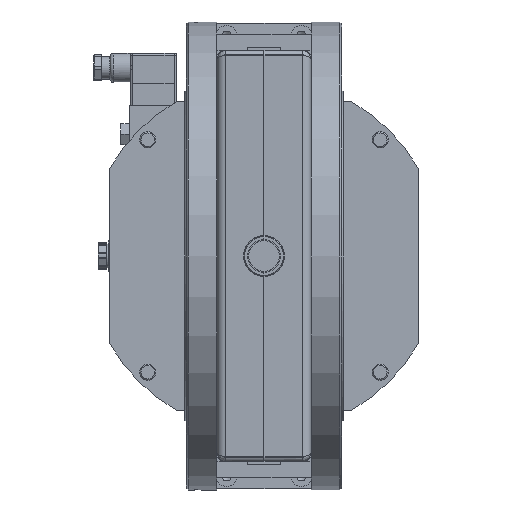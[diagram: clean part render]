
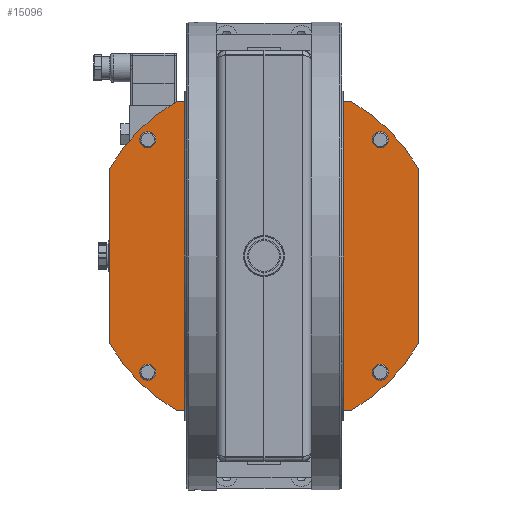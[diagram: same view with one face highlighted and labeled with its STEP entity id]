
A CAD part, left-side view. The second image highlights one B-rep face of the part: STEP entity #15096.
In plain terms, the highlighted planar face has unit normal (-1, 0, 0) as drawn and (0, -1, 0) by its records, which use the part's own axes.
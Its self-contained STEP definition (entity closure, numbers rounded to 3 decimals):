
#7383=LINE('',#56268,#9102);
#7384=LINE('',#56272,#9103);
#7385=LINE('',#56276,#9104);
#7386=LINE('',#56280,#9105);
#9102=VECTOR('',#41190,1.);
#9103=VECTOR('',#41193,1.);
#9104=VECTOR('',#41196,1.);
#9105=VECTOR('',#41199,1.);
#13199=PLANE('',#34940);
#15096=ADVANCED_FACE('',(#16430,#16431,#16432,#16433,#16434,#16435,#16436,
#16437,#16438,#16439),#13199,.T.);
#16430=FACE_BOUND('',#18657,.T.);
#16431=FACE_BOUND('',#18658,.T.);
#16432=FACE_BOUND('',#18659,.T.);
#16433=FACE_BOUND('',#18660,.T.);
#16434=FACE_BOUND('',#18661,.T.);
#16435=FACE_BOUND('',#18662,.T.);
#16436=FACE_BOUND('',#18663,.T.);
#16437=FACE_BOUND('',#18664,.T.);
#16438=FACE_BOUND('',#18665,.T.);
#16439=FACE_BOUND('',#18666,.T.);
#18657=EDGE_LOOP('',(#24826));
#18658=EDGE_LOOP('',(#24827));
#18659=EDGE_LOOP('',(#24828));
#18660=EDGE_LOOP('',(#24829));
#18661=EDGE_LOOP('',(#24830));
#18662=EDGE_LOOP('',(#24831));
#18663=EDGE_LOOP('',(#24832));
#18664=EDGE_LOOP('',(#24833,#24834,#24835,#24836,#24837,#24838,#24839,#24840));
#18665=EDGE_LOOP('',(#24841));
#18666=EDGE_LOOP('',(#24842));
#24826=ORIENTED_EDGE('',*,*,#31241,.T.);
#24827=ORIENTED_EDGE('',*,*,#31242,.T.);
#24828=ORIENTED_EDGE('',*,*,#31243,.F.);
#24829=ORIENTED_EDGE('',*,*,#31244,.F.);
#24830=ORIENTED_EDGE('',*,*,#31245,.F.);
#24831=ORIENTED_EDGE('',*,*,#31246,.F.);
#24832=ORIENTED_EDGE('',*,*,#31247,.T.);
#24833=ORIENTED_EDGE('',*,*,#31248,.F.);
#24834=ORIENTED_EDGE('',*,*,#31249,.T.);
#24835=ORIENTED_EDGE('',*,*,#31250,.F.);
#24836=ORIENTED_EDGE('',*,*,#31251,.F.);
#24837=ORIENTED_EDGE('',*,*,#31252,.F.);
#24838=ORIENTED_EDGE('',*,*,#31253,.F.);
#24839=ORIENTED_EDGE('',*,*,#31254,.F.);
#24840=ORIENTED_EDGE('',*,*,#31255,.F.);
#24841=ORIENTED_EDGE('',*,*,#31256,.T.);
#24842=ORIENTED_EDGE('',*,*,#31257,.T.);
#27953=VERTEX_POINT('',#56252);
#27954=VERTEX_POINT('',#56254);
#27955=VERTEX_POINT('',#56256);
#27956=VERTEX_POINT('',#56258);
#27957=VERTEX_POINT('',#56260);
#27958=VERTEX_POINT('',#56262);
#27959=VERTEX_POINT('',#56264);
#27960=VERTEX_POINT('',#56266);
#27961=VERTEX_POINT('',#56267);
#27962=VERTEX_POINT('',#56269);
#27963=VERTEX_POINT('',#56271);
#27964=VERTEX_POINT('',#56273);
#27965=VERTEX_POINT('',#56275);
#27966=VERTEX_POINT('',#56277);
#27967=VERTEX_POINT('',#56279);
#27968=VERTEX_POINT('',#56282);
#27969=VERTEX_POINT('',#56284);
#31241=EDGE_CURVE('',#27953,#27953,#32607,.T.);
#31242=EDGE_CURVE('',#27954,#27954,#32608,.T.);
#31243=EDGE_CURVE('',#27955,#27955,#32609,.T.);
#31244=EDGE_CURVE('',#27956,#27956,#32610,.T.);
#31245=EDGE_CURVE('',#27957,#27957,#32611,.T.);
#31246=EDGE_CURVE('',#27958,#27958,#32612,.T.);
#31247=EDGE_CURVE('',#27959,#27959,#32613,.T.);
#31248=EDGE_CURVE('',#27960,#27961,#32614,.T.);
#31249=EDGE_CURVE('',#27960,#27962,#7383,.T.);
#31250=EDGE_CURVE('',#27963,#27962,#32615,.T.);
#31251=EDGE_CURVE('',#27964,#27963,#7384,.T.);
#31252=EDGE_CURVE('',#27965,#27964,#32616,.T.);
#31253=EDGE_CURVE('',#27966,#27965,#7385,.T.);
#31254=EDGE_CURVE('',#27967,#27966,#32617,.T.);
#31255=EDGE_CURVE('',#27961,#27967,#7386,.T.);
#31256=EDGE_CURVE('',#27968,#27968,#32618,.T.);
#31257=EDGE_CURVE('',#27969,#27969,#32619,.T.);
#32607=CIRCLE('',#34927,5.);
#32608=CIRCLE('',#34928,5.);
#32609=CIRCLE('',#34929,4.2);
#32610=CIRCLE('',#34930,4.2);
#32611=CIRCLE('',#34931,4.2);
#32612=CIRCLE('',#34932,4.2);
#32613=CIRCLE('',#34933,14.95);
#32614=CIRCLE('',#34934,109.25);
#32615=CIRCLE('',#34935,109.25);
#32616=CIRCLE('',#34936,109.25);
#32617=CIRCLE('',#34937,109.25);
#32618=CIRCLE('',#34938,5.);
#32619=CIRCLE('',#34939,5.);
#34927=AXIS2_PLACEMENT_3D('',#56251,#41174,#41175);
#34928=AXIS2_PLACEMENT_3D('',#56253,#41176,#41177);
#34929=AXIS2_PLACEMENT_3D('',#56255,#41178,#41179);
#34930=AXIS2_PLACEMENT_3D('',#56257,#41180,#41181);
#34931=AXIS2_PLACEMENT_3D('',#56259,#41182,#41183);
#34932=AXIS2_PLACEMENT_3D('',#56261,#41184,#41185);
#34933=AXIS2_PLACEMENT_3D('',#56263,#41186,#41187);
#34934=AXIS2_PLACEMENT_3D('',#56265,#41188,#41189);
#34935=AXIS2_PLACEMENT_3D('',#56270,#41191,#41192);
#34936=AXIS2_PLACEMENT_3D('',#56274,#41194,#41195);
#34937=AXIS2_PLACEMENT_3D('',#56278,#41197,#41198);
#34938=AXIS2_PLACEMENT_3D('',#56281,#41200,#41201);
#34939=AXIS2_PLACEMENT_3D('',#56283,#41202,#41203);
#34940=AXIS2_PLACEMENT_3D('',#56285,#41204,#41205);
#41174=DIRECTION('',(0.,1.,0.));
#41175=DIRECTION('',(1.,0.,0.));
#41176=DIRECTION('',(0.,1.,0.));
#41177=DIRECTION('',(1.,0.,0.));
#41178=DIRECTION('',(0.,-1.,0.));
#41179=DIRECTION('',(1.,0.,0.));
#41180=DIRECTION('',(0.,-1.,0.));
#41181=DIRECTION('',(1.,0.,0.));
#41182=DIRECTION('',(0.,-1.,0.));
#41183=DIRECTION('',(1.,0.,0.));
#41184=DIRECTION('',(0.,-1.,0.));
#41185=DIRECTION('',(1.,0.,0.));
#41186=DIRECTION('',(0.,1.,0.));
#41187=DIRECTION('',(-1.,0.,0.));
#41188=DIRECTION('',(0.,1.,0.));
#41189=DIRECTION('',(-1.,0.,0.));
#41190=DIRECTION('',(1.,0.,0.));
#41191=DIRECTION('',(0.,1.,0.));
#41192=DIRECTION('',(-1.,0.,0.));
#41193=DIRECTION('',(0.,0.,-1.));
#41194=DIRECTION('',(0.,1.,0.));
#41195=DIRECTION('',(-1.,0.,0.));
#41196=DIRECTION('',(1.,0.,0.));
#41197=DIRECTION('',(0.,1.,0.));
#41198=DIRECTION('',(-1.,0.,0.));
#41199=DIRECTION('',(0.,0.,1.));
#41200=DIRECTION('',(0.,1.,0.));
#41201=DIRECTION('',(1.,0.,0.));
#41202=DIRECTION('',(0.,1.,0.));
#41203=DIRECTION('',(1.,0.,0.));
#41204=DIRECTION('',(0.,-1.,0.));
#41205=DIRECTION('',(1.,0.,0.));
#56251=CARTESIAN_POINT('',(71.595,1.5,71.595));
#56252=CARTESIAN_POINT('',(76.595,1.5,71.595));
#56253=CARTESIAN_POINT('',(-71.595,1.5,-71.595));
#56254=CARTESIAN_POINT('',(-66.595,1.5,-71.595));
#56255=CARTESIAN_POINT('',(24.042,1.5,-24.042));
#56256=CARTESIAN_POINT('',(28.242,1.5,-24.042));
#56257=CARTESIAN_POINT('',(24.042,1.5,24.042));
#56258=CARTESIAN_POINT('',(28.242,1.5,24.042));
#56259=CARTESIAN_POINT('',(-24.042,1.5,24.042));
#56260=CARTESIAN_POINT('',(-19.842,1.5,24.042));
#56261=CARTESIAN_POINT('',(-24.042,1.5,-24.042));
#56262=CARTESIAN_POINT('',(-19.842,1.5,-24.042));
#56263=CARTESIAN_POINT('',(0.,1.5,0.));
#56264=CARTESIAN_POINT('',(-14.95,1.5,0.));
#56265=CARTESIAN_POINT('',(0.,1.5,0.));
#56266=CARTESIAN_POINT('',(-53.95,1.5,-95.));
#56267=CARTESIAN_POINT('',(-95.,1.5,-53.95));
#56268=CARTESIAN_POINT('',(-53.95,1.5,-95.));
#56269=CARTESIAN_POINT('',(53.95,1.5,-95.));
#56270=CARTESIAN_POINT('',(0.,1.5,0.));
#56271=CARTESIAN_POINT('',(95.,1.5,-53.95));
#56272=CARTESIAN_POINT('',(95.,1.5,53.95));
#56273=CARTESIAN_POINT('',(95.,1.5,53.95));
#56274=CARTESIAN_POINT('',(0.,1.5,0.));
#56275=CARTESIAN_POINT('',(53.95,1.5,95.));
#56276=CARTESIAN_POINT('',(-53.95,1.5,95.));
#56277=CARTESIAN_POINT('',(-53.95,1.5,95.));
#56278=CARTESIAN_POINT('',(0.,1.5,0.));
#56279=CARTESIAN_POINT('',(-95.,1.5,53.95));
#56280=CARTESIAN_POINT('',(-95.,1.5,-53.95));
#56281=CARTESIAN_POINT('',(-71.595,1.5,71.595));
#56282=CARTESIAN_POINT('',(-66.595,1.5,71.595));
#56283=CARTESIAN_POINT('',(71.595,1.5,-71.595));
#56284=CARTESIAN_POINT('',(76.595,1.5,-71.595));
#56285=CARTESIAN_POINT('',(109.25,1.5,0.));
